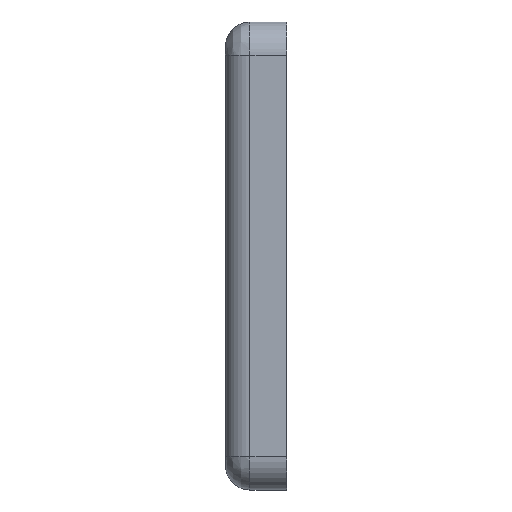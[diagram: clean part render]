
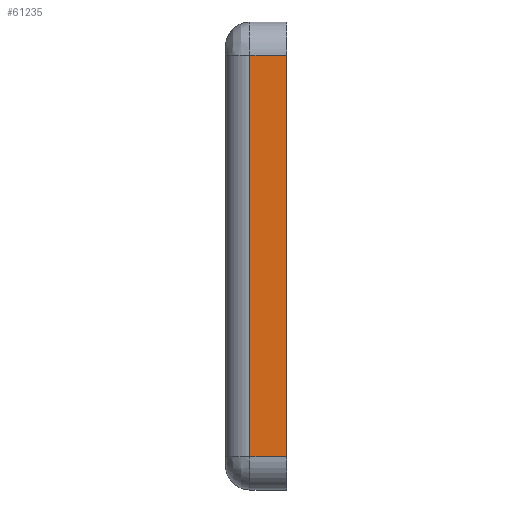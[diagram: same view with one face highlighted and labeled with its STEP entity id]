
A CAD part, left-side view. The second image highlights one B-rep face of the part: STEP entity #61235.
In plain terms, the highlighted planar face has unit normal (-1, 0, 0).
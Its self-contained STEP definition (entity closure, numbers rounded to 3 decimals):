
#2907 = ORIENTED_EDGE ( 'NONE', *, *, #33744, .F. ) ;
#3069 = ORIENTED_EDGE ( 'NONE', *, *, #13465, .T. ) ;
#3561 = VECTOR ( 'NONE', #83824, 39.37 ) ;
#4341 = VECTOR ( 'NONE', #11282, 39.37 ) ;
#4675 = CARTESIAN_POINT ( 'NONE',  ( -15.08, 0., 8.213 ) ) ;
#7043 = FACE_OUTER_BOUND ( 'NONE', #72476, .T. ) ;
#7420 = EDGE_CURVE ( 'NONE', #9978, #37556, #28019, .T. ) ;
#7496 = DIRECTION ( 'NONE',  ( -1., 0., 0. ) ) ;
#8722 = CARTESIAN_POINT ( 'NONE',  ( -15.08, 0., -8.213 ) ) ;
#9978 = VERTEX_POINT ( 'NONE', #19726 ) ;
#11006 = CARTESIAN_POINT ( 'NONE',  ( -15.08, 1.5, 8.213 ) ) ;
#11282 = DIRECTION ( 'NONE',  ( 0., 0., -1. ) ) ;
#13465 = EDGE_CURVE ( 'NONE', #30806, #9978, #38703, .T. ) ;
#19726 = CARTESIAN_POINT ( 'NONE',  ( -15.08, 1.5, -8.213 ) ) ;
#20415 = EDGE_CURVE ( 'NONE', #22112, #37556, #54943, .T. ) ;
#21335 = ORIENTED_EDGE ( 'NONE', *, *, #7420, .T. ) ;
#22112 = VERTEX_POINT ( 'NONE', #26078 ) ;
#26078 = CARTESIAN_POINT ( 'NONE',  ( -15.08, 0., 8.213 ) ) ;
#28019 = LINE ( 'NONE', #59572, #56614 ) ;
#30806 = VERTEX_POINT ( 'NONE', #11006 ) ;
#32709 = ORIENTED_EDGE ( 'NONE', *, *, #20415, .F. ) ;
#33744 = EDGE_CURVE ( 'NONE', #30806, #22112, #69476, .T. ) ;
#37556 = VERTEX_POINT ( 'NONE', #8722 ) ;
#38703 = LINE ( 'NONE', #77233, #3561 ) ;
#47004 = CARTESIAN_POINT ( 'NONE',  ( -15.08, 0.1, 8.213 ) ) ;
#51889 = VECTOR ( 'NONE', #75908, 39.37 ) ;
#53654 = DIRECTION ( 'NONE',  ( 0., 0., 1. ) ) ;
#54943 = LINE ( 'NONE', #4675, #4341 ) ;
#56614 = VECTOR ( 'NONE', #62109, 39.37 ) ;
#59193 = AXIS2_PLACEMENT_3D ( 'NONE', #47004, #7496, #53654 ) ;
#59435 = PLANE ( 'NONE',  #59193 ) ;
#59572 = CARTESIAN_POINT ( 'NONE',  ( -15.08, 0.1, -8.213 ) ) ;
#61235 = ADVANCED_FACE ( 'NONE', ( #7043 ), #59435, .T. ) ;
#62109 = DIRECTION ( 'NONE',  ( 0., -1., 0. ) ) ;
#69291 = CARTESIAN_POINT ( 'NONE',  ( -15.08, 0.1, 8.213 ) ) ;
#69476 = LINE ( 'NONE', #69291, #51889 ) ;
#72476 = EDGE_LOOP ( 'NONE', ( #2907, #3069, #21335, #32709 ) ) ;
#75908 = DIRECTION ( 'NONE',  ( 0., -1., 0. ) ) ;
#77233 = CARTESIAN_POINT ( 'NONE',  ( -15.08, 1.5, 8.213 ) ) ;
#83824 = DIRECTION ( 'NONE',  ( 0., 0., -1. ) ) ;
